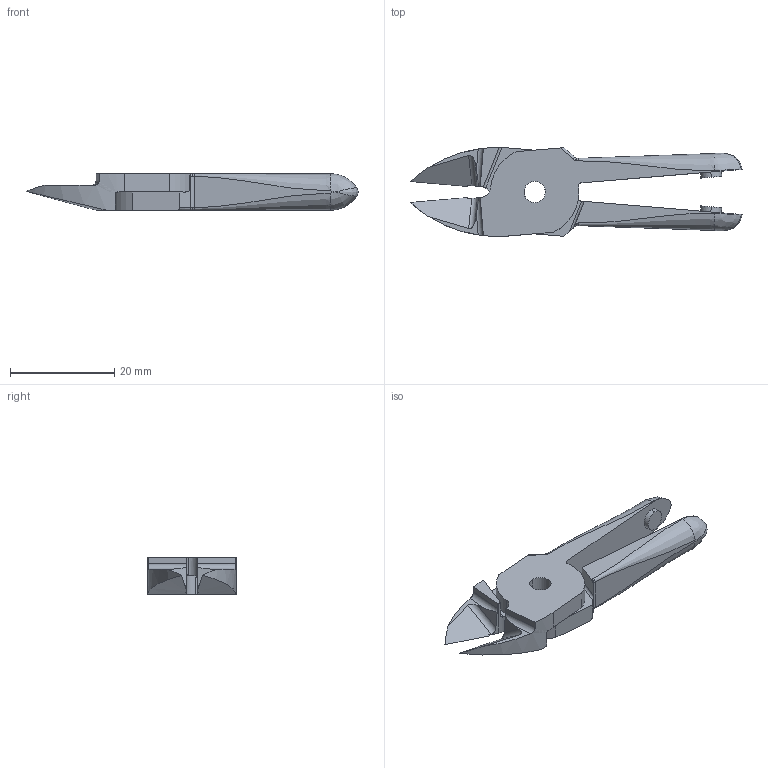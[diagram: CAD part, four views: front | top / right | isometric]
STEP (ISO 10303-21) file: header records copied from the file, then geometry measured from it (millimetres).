
FILE_DESCRIPTION (( 'STEP AP214' ), '1' );
FILE_NAME ('N3AP.STEP', '2019-11-29T03:14:08', ( '微软用户' ), ( '微软中国' ), 'SwSTEP 2.0', 'SolidWorks 2016', '' );
FILE_SCHEMA (( 'AUTOMOTIVE_DESIGN' ));
Length unit declared in the file: millimetre
Products named in the file (3): N3AP_01; N3AP_02; N3AP
Assembly tree (2 placements, depth 2):
  N3AP
    N3AP_02
    N3AP_01
Bounding box: 63.69 x 17.06 x 7 mm (x, y, z)
Volume: 3659.8 mm3; surface area: 3213.7 mm2
Topology: 2 solids, 2 shells, 96 faces, 256 edges, 164 vertices
Faces by surface type: cylinder 38, plane 38, bspline 20
Entity records: 6554 total; most frequent: CARTESIAN_POINT 4223, ORIENTED_EDGE 508, DIRECTION 414, EDGE_CURVE 254, VERTEX_POINT 164, AXIS2_PLACEMENT_3D 147, VECTOR 120, LINE 120
